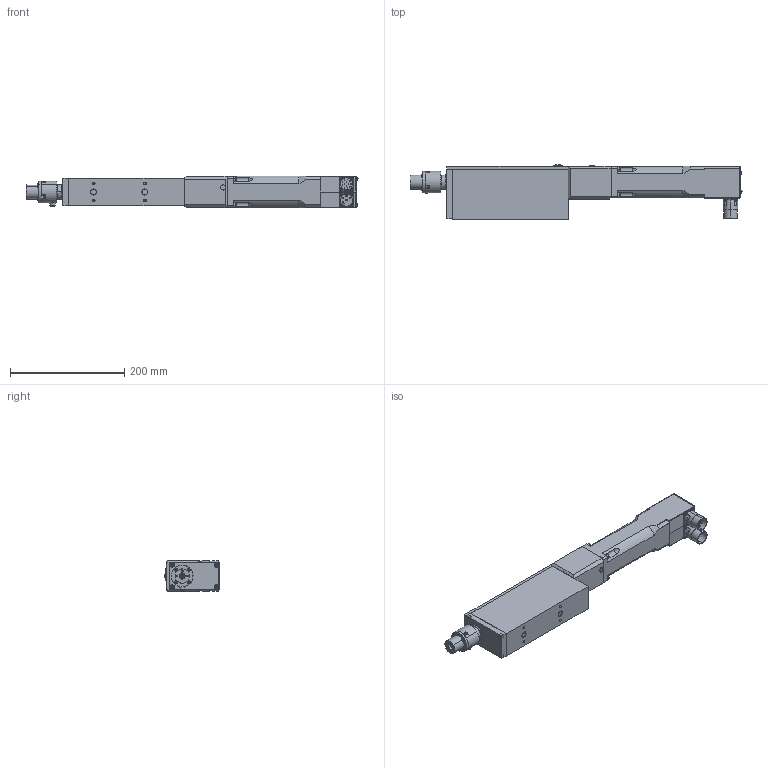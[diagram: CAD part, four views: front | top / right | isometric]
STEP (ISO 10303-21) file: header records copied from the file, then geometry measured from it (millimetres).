
FILE_DESCRIPTION (( 'STEP AP203' ), '1' );
FILE_NAME ('PR5ID010-010-040H.STEP', '2021-02-04T13:58:06', ( '' ), ( '' ), 'SwSTEP 2.0', 'SolidWorks 2016', '' );
FILE_SCHEMA (( 'CONFIG_CONTROL_DESIGN' ));
Length unit declared in the file: millimetre
Products named in the file (1): PR5ID010-010-040H
Bounding box: 582.09 x 95.58 x 55 mm (x, y, z)
Volume: 1599211.4 mm3; surface area: 284661.4 mm2
Topology: 29 solids, 41 shells, 2201 faces, 5148 edges, 3062 vertices
Faces by surface type: plane 1023, cylinder 612, cone 418, bspline 87, torus 48, sphere 13
Entity records: 65364 total; most frequent: CARTESIAN_POINT 16074, DIRECTION 10452, ORIENTED_EDGE 9952, EDGE_CURVE 4976, AXIS2_PLACEMENT_3D 4014, VERTEX_POINT 3049, EDGE_LOOP 2513, VECTOR 2424
